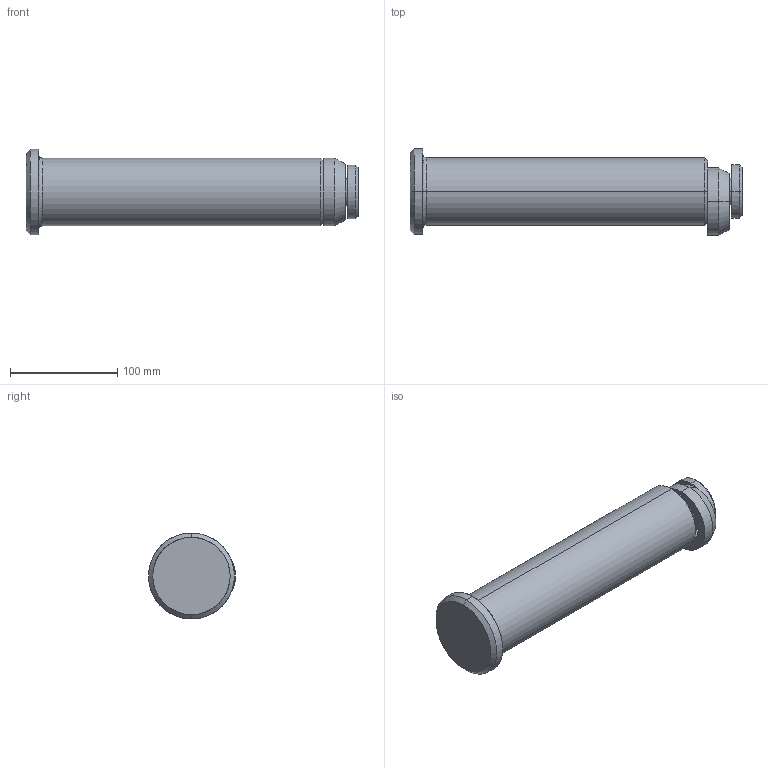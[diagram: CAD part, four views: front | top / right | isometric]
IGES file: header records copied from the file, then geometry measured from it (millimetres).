
Start section: START RECORD GO HERE.
Global section: file name: 395C-063-265.igs; native system: DASSAULT SYSTEMES CATIA V5 R20 - www.3ds.com; preprocessor: CATIA Version 5 Release 20 ; author: Utente; organization: NB04-ASUS; date: 20200409.145748; units: millimetre
Bounding box: 309 x 81 x 80 mm (x, y, z)
Surface area: 80971.8 mm2 (no closed solid volume)
Topology: 0 solids, 0 shells, 34 faces, 132 edges, 132 vertices
Faces by surface type: revolution 26, extrusion 8
